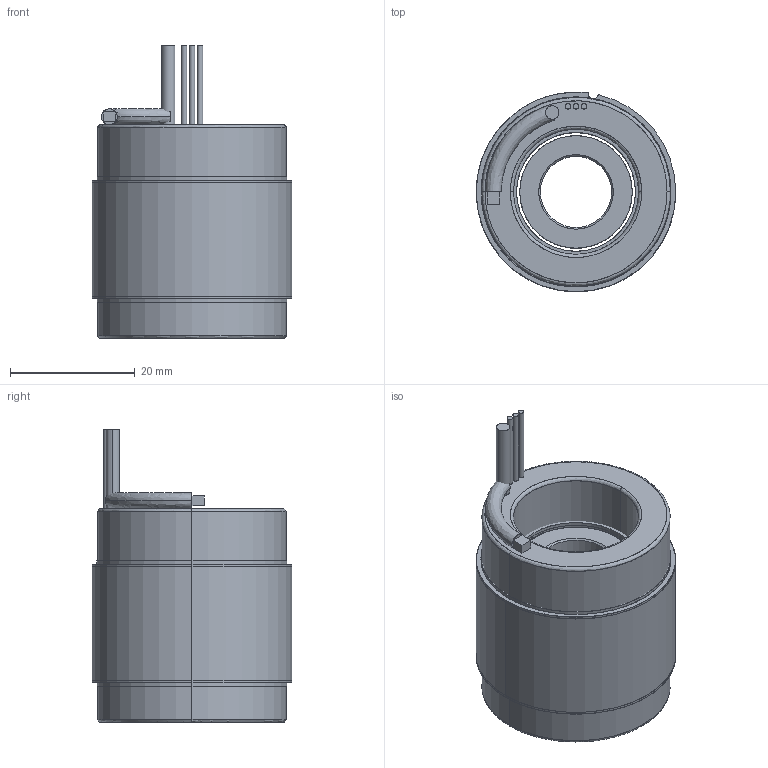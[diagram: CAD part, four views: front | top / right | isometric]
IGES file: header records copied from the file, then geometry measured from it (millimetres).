
Start section: SolidWorks IGES file using analytic representation for surfaces
Global section: file name: \\fs01.aveox.local\user documents\eng\My Documents\STANDARD STATOR ROTOR SETS\NEW DIRECT DRIVE MOTOR\1.26 OD 9s8p\6100335-02.IGS; native system: SolidWorks 2016; preprocessor: SolidWorks 2016; author: eng; date: 191023.125805; units: millimetre
Bounding box: 32 x 32 x 46.99 mm (x, y, z)
Surface area: 16692.6 mm2 (no closed solid volume)
Topology: 0 solids, 0 shells, 90 faces, 1744 edges, 1744 vertices
Faces by surface type: revolution 48, bspline 42
